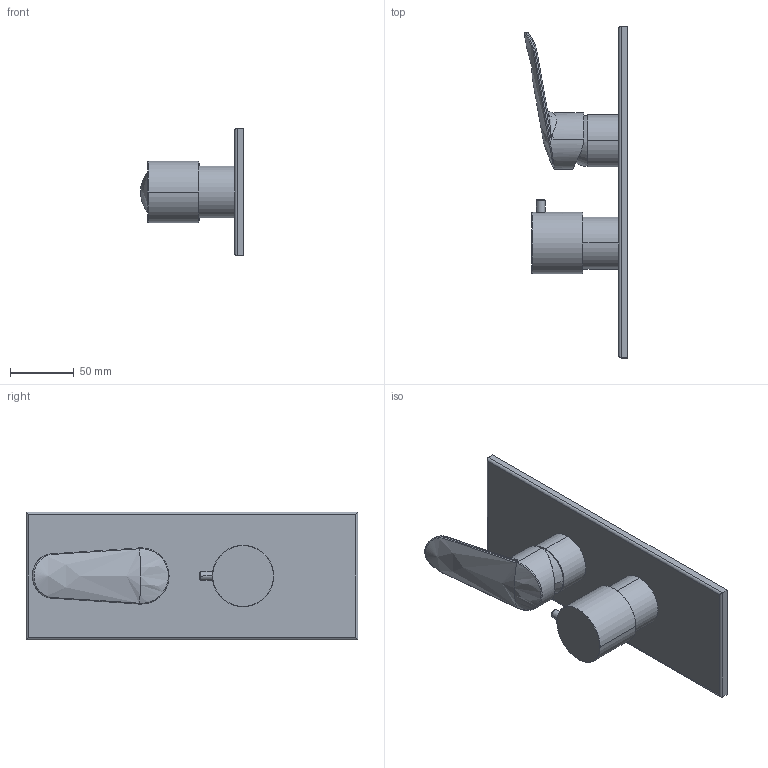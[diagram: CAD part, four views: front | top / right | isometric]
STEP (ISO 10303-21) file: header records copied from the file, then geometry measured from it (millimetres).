
FILE_DESCRIPTION((''),'2;1');
FILE_NAME('F3009X6_FILE_3D','2016-05-25T',('ivanv'),(''),'CREO PARAMETRIC BY PTC INC, 2015290','CREO PARAMETRIC BY PTC INC, 2015290','');
FILE_SCHEMA(('CONFIG_CONTROL_DESIGN'));
Length unit declared in the file: millimetre
Products named in the file (1): F3009X6_FILE_3D
Bounding box: 80.78 x 260 x 100 mm (x, y, z)
Volume: 323372.4 mm3; surface area: 95048.7 mm2
Topology: 1 solids, 2 shells, 892 faces, 2367 edges, 1505 vertices
Faces by surface type: plane 564, bspline 197, cylinder 64, cone 31, torus 26, sphere 10
Entity records: 39120 total; most frequent: CARTESIAN_POINT 19282, ORIENTED_EDGE 4730, DIRECTION 3156, EDGE_CURVE 2365, VERTEX_POINT 1505, VECTOR 1218, LINE 1218, AXIS2_PLACEMENT_3D 969
